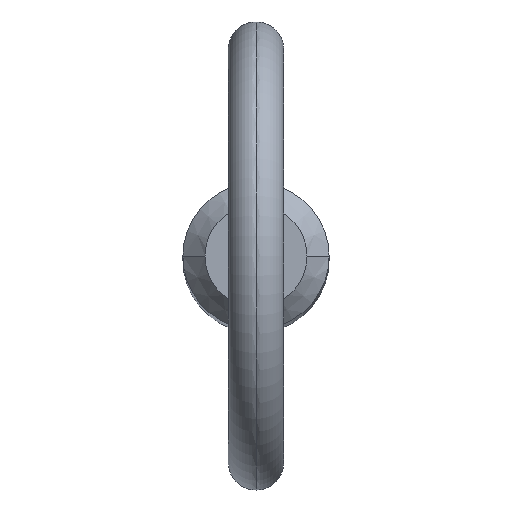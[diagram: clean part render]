
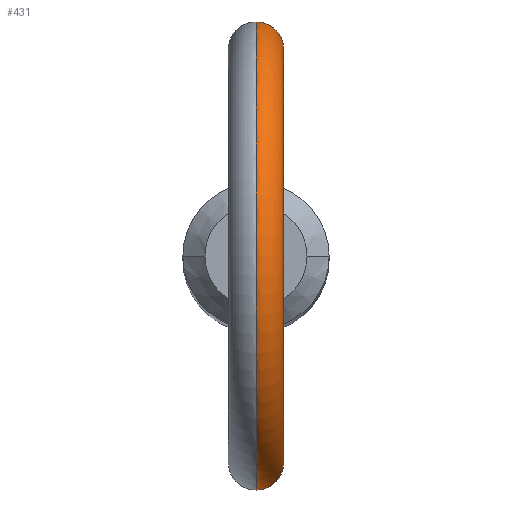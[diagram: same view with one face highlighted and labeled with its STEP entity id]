
A CAD part, top view. The second image highlights one B-rep face of the part: STEP entity #431.
In plain terms, the highlighted toroidal (fillet/blend) face has major radius 11.2 mm and minor radius 1.5 mm.
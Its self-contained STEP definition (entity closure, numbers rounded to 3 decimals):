
#5 = CARTESIAN_POINT ( 'NONE',  ( 0., -3.965, 97.135 ) ) ;
#10 = B_SPLINE_CURVE_WITH_KNOTS ( 'NONE', 3,
 ( #488, #438, #300, #182, #503, #219, #496, #105, #233, #329, #147, #67, #110, #188, #260, #270, #16, #368, #404, #456, #144, #409 ),
 .UNSPECIFIED., .F., .F.,
 ( 4, 2, 2, 2, 2, 2, 2, 2, 2, 2, 4 ),
 ( 0.001, 0.001, 0.002, 0.002, 0.003, 0.003, 0.003, 0.004, 0.004, 0.005, 0.006 ),
 .UNSPECIFIED. ) ;
#12 = CARTESIAN_POINT ( 'NONE',  ( 0.409, -3.948, 97.174 ) ) ;
#15 = CARTESIAN_POINT ( 'NONE',  ( 0.404, -3.946, 100.282 ) ) ;
#16 = CARTESIAN_POINT ( 'NONE',  ( 1.185, 3.786, 99.66 ) ) ;
#18 = CARTESIAN_POINT ( 'NONE',  ( 0., 0., 109.2 ) ) ;
#23 = ORIENTED_EDGE ( 'NONE', *, *, #210, .F. ) ;
#24 = FACE_OUTER_BOUND ( 'NONE', #403, .T. ) ;
#44 = CARTESIAN_POINT ( 'NONE',  ( 0., -3.965, 100.347 ) ) ;
#46 = CARTESIAN_POINT ( 'NONE',  ( 1.028, -3.83, 97.515 ) ) ;
#48 = CARTESIAN_POINT ( 'NONE',  ( 0.693, -3.905, 97.29 ) ) ;
#51 = CARTESIAN_POINT ( 'NONE',  ( 1.503, -3.669, 98.599 ) ) ;
#59 = CARTESIAN_POINT ( 'NONE',  ( 0., -3.965, 100.347 ) ) ;
#62 = CIRCLE ( 'NONE', #88, 9.7 ) ;
#67 = CARTESIAN_POINT ( 'NONE',  ( 1.499, 3.671, 98.494 ) ) ;
#88 = AXIS2_PLACEMENT_3D ( 'NONE', #336, #232, #190 ) ;
#98 = CARTESIAN_POINT ( 'NONE',  ( 0.782, -3.888, 97.337 ) ) ;
#105 = CARTESIAN_POINT ( 'NONE',  ( 1.236, 3.77, 97.729 ) ) ;
#109 = EDGE_CURVE ( 'NONE', #247, #136, #253, .T. ) ;
#110 = CARTESIAN_POINT ( 'NONE',  ( 1.503, 3.669, 98.598 ) ) ;
#112 = ORIENTED_EDGE ( 'NONE', *, *, #109, .T. ) ;
#115 = CARTESIAN_POINT ( 'NONE',  ( 0., 3.965, 97.135 ) ) ;
#136 = VERTEX_POINT ( 'NONE', #5 ) ;
#140 = CARTESIAN_POINT ( 'NONE',  ( 0.102, -3.965, 100.347 ) ) ;
#141 = CARTESIAN_POINT ( 'NONE',  ( 0., -3.965, 97.135 ) ) ;
#144 = CARTESIAN_POINT ( 'NONE',  ( 0.206, 3.965, 100.347 ) ) ;
#147 = CARTESIAN_POINT ( 'NONE',  ( 1.47, 3.682, 98.292 ) ) ;
#177 = CARTESIAN_POINT ( 'NONE',  ( 0.925, -3.858, 99.968 ) ) ;
#178 = CARTESIAN_POINT ( 'NONE',  ( 1.346, -3.73, 97.908 ) ) ;
#182 = CARTESIAN_POINT ( 'NONE',  ( 0.691, 3.905, 97.289 ) ) ;
#188 = CARTESIAN_POINT ( 'NONE',  ( 1.488, 3.675, 98.905 ) ) ;
#190 = DIRECTION ( 'NONE',  ( 0., 0., -1. ) ) ;
#191 = ORIENTED_EDGE ( 'NONE', *, *, #429, .F. ) ;
#210 = EDGE_CURVE ( 'NONE', #371, #440, #62, .T. ) ;
#214 = CARTESIAN_POINT ( 'NONE',  ( 1.186, -3.786, 99.659 ) ) ;
#219 = CARTESIAN_POINT ( 'NONE',  ( 0.949, 3.851, 97.449 ) ) ;
#226 = DIRECTION ( 'NONE',  ( 1., 0., 0. ) ) ;
#232 = DIRECTION ( 'NONE',  ( 1., 0., 0. ) ) ;
#233 = CARTESIAN_POINT ( 'NONE',  ( 1.344, 3.731, 97.903 ) ) ;
#247 = VERTEX_POINT ( 'NONE', #115 ) ;
#253 = CIRCLE ( 'NONE', #508, 12.7 ) ;
#254 = CARTESIAN_POINT ( 'NONE',  ( 1.404, -3.708, 99.201 ) ) ;
#258 = CARTESIAN_POINT ( 'NONE',  ( 0.205, -3.965, 97.135 ) ) ;
#260 = CARTESIAN_POINT ( 'NONE',  ( 1.441, 3.695, 99.108 ) ) ;
#270 = CARTESIAN_POINT ( 'NONE',  ( 1.291, 3.75, 99.484 ) ) ;
#281 = CARTESIAN_POINT ( 'NONE',  ( 0., 3.965, 100.347 ) ) ;
#291 = CARTESIAN_POINT ( 'NONE',  ( 1.237, -3.77, 97.731 ) ) ;
#294 = CARTESIAN_POINT ( 'NONE',  ( 1.493, -3.673, 98.804 ) ) ;
#300 = CARTESIAN_POINT ( 'NONE',  ( 0.41, 3.948, 97.174 ) ) ;
#313 = TOROIDAL_SURFACE ( 'NONE', #478, 11.2, 1.5 ) ;
#321 = CARTESIAN_POINT ( 'NONE',  ( 1.479, -3.679, 98.907 ) ) ;
#322 = CARTESIAN_POINT ( 'NONE',  ( 0.949, -3.851, 97.449 ) ) ;
#329 = CARTESIAN_POINT ( 'NONE',  ( 1.447, 3.692, 98.193 ) ) ;
#332 = DIRECTION ( 'NONE',  ( 0., 0., -1. ) ) ;
#336 = CARTESIAN_POINT ( 'NONE',  ( 0., 0., 109.2 ) ) ;
#362 = ORIENTED_EDGE ( 'NONE', *, *, #406, .F. ) ;
#368 = CARTESIAN_POINT ( 'NONE',  ( 0.927, 3.858, 99.967 ) ) ;
#371 = VERTEX_POINT ( 'NONE', #281 ) ;
#383 = B_SPLINE_CURVE_WITH_KNOTS ( 'NONE', 3,
 ( #44, #140, #400, #15, #485, #439, #177, #214, #395, #254, #398, #321, #294, #51, #396, #484, #441, #178, #291, #46, #322, #98, #48, #12, #258, #141 ),
 .UNSPECIFIED., .F., .F.,
 ( 4, 2, 2, 2, 2, 2, 2, 2, 2, 2, 2, 2, 4 ),
 ( 0.004, 0.005, 0.005, 0.005, 0.006, 0.006, 0.007, 0.007, 0.007, 0.008, 0.008, 0.008, 0.009 ),
 .UNSPECIFIED. ) ;
#385 = DIRECTION ( 'NONE',  ( 0., 0., -1. ) ) ;
#395 = CARTESIAN_POINT ( 'NONE',  ( 1.291, -3.75, 99.483 ) ) ;
#396 = CARTESIAN_POINT ( 'NONE',  ( 1.499, -3.671, 98.497 ) ) ;
#398 = CARTESIAN_POINT ( 'NONE',  ( 1.434, -3.697, 99.105 ) ) ;
#400 = CARTESIAN_POINT ( 'NONE',  ( 0.205, -3.961, 100.334 ) ) ;
#403 = EDGE_LOOP ( 'NONE', ( #191, #112, #362, #23 ) ) ;
#404 = CARTESIAN_POINT ( 'NONE',  ( 0.769, 3.894, 100.101 ) ) ;
#406 = EDGE_CURVE ( 'NONE', #440, #136, #383, .T. ) ;
#409 = CARTESIAN_POINT ( 'NONE',  ( 0., 3.965, 100.347 ) ) ;
#429 = EDGE_CURVE ( 'NONE', #247, #371, #10, .T. ) ;
#431 = ADVANCED_FACE ( 'NONE', ( #24 ), #313, .T. ) ;
#432 = CARTESIAN_POINT ( 'NONE',  ( 0., 0., 109.2 ) ) ;
#437 = DIRECTION ( 'NONE',  ( 1., 0., 0. ) ) ;
#438 = CARTESIAN_POINT ( 'NONE',  ( 0.204, 3.965, 97.135 ) ) ;
#439 = CARTESIAN_POINT ( 'NONE',  ( 0.77, -3.894, 100.1 ) ) ;
#440 = VERTEX_POINT ( 'NONE', #59 ) ;
#441 = CARTESIAN_POINT ( 'NONE',  ( 1.447, -3.692, 98.193 ) ) ;
#456 = CARTESIAN_POINT ( 'NONE',  ( 0.411, 3.948, 100.291 ) ) ;
#478 = AXIS2_PLACEMENT_3D ( 'NONE', #18, #226, #332 ) ;
#484 = CARTESIAN_POINT ( 'NONE',  ( 1.471, -3.682, 98.294 ) ) ;
#485 = CARTESIAN_POINT ( 'NONE',  ( 0.498, -3.935, 100.244 ) ) ;
#488 = CARTESIAN_POINT ( 'NONE',  ( 0., 3.965, 97.135 ) ) ;
#496 = CARTESIAN_POINT ( 'NONE',  ( 1.026, 3.831, 97.513 ) ) ;
#503 = CARTESIAN_POINT ( 'NONE',  ( 0.782, 3.888, 97.337 ) ) ;
#508 = AXIS2_PLACEMENT_3D ( 'NONE', #432, #437, #385 ) ;
